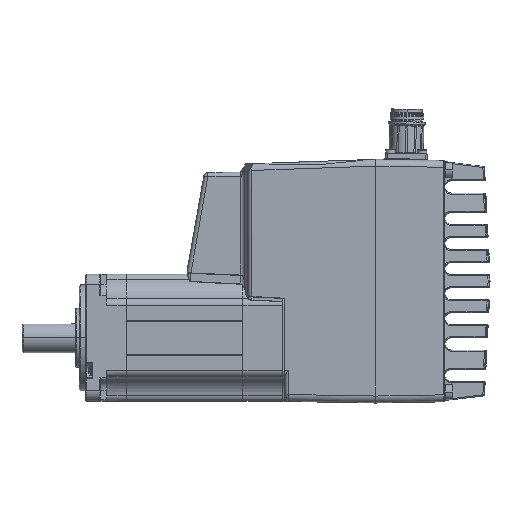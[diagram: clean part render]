
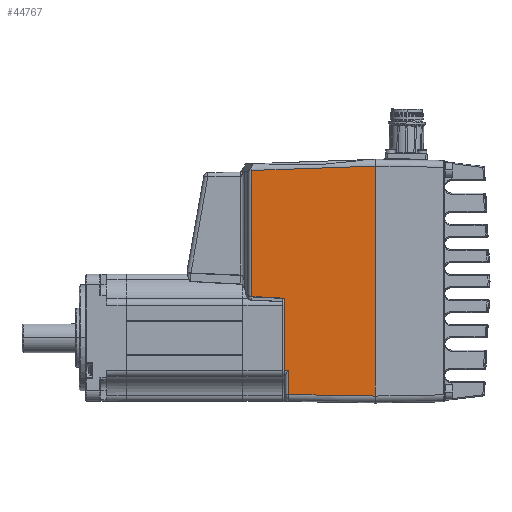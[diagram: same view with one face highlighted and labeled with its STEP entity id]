
A CAD part, top view. The second image highlights one B-rep face of the part: STEP entity #44767.
In plain terms, the highlighted planar face has unit normal (-0.035, 0, 0.999) as drawn and (0.999, 0, 0.035) by its records, which use the part's own axes.
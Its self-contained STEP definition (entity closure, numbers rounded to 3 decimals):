
#2304=DIRECTION('',(0.036,0.,-0.999));
#2305=VECTOR('',#2304,1.885);
#2306=CARTESIAN_POINT('',(30.001,-42.249,42.904));
#2307=LINE('',#2306,#2305);
#2326=DIRECTION('',(-0.035,0.017,0.999));
#2327=VECTOR('',#2326,40.954);
#2328=CARTESIAN_POINT('',(31.497,-54.3,
0.097));
#2329=LINE('',#2328,#2327);
#2333=CARTESIAN_POINT('',(30.002,-8.093,42.903));
#2334=CARTESIAN_POINT('',(29.84,-7.815,47.536));
#2335=CARTESIAN_POINT('',(29.658,-7.545,52.737));
#2336=CARTESIAN_POINT('',(29.458,-7.285,58.468));
#2341=DIRECTION('',(0.035,0.035,-0.999));
#2342=VECTOR('',#2341,58.442);
#2343=CARTESIAN_POINT('',(29.458,52.26,58.468));
#2344=LINE('',#2343,#2342);
#3882=DIRECTION('',(0.,-1.,0.));
#3883=VECTOR('',#3882,11.336);
#3884=CARTESIAN_POINT('',(30.068,-42.249,41.02));
#3885=LINE('',#3884,#3883);
#4693=CARTESIAN_POINT('',(29.458,-7.285,58.468));
#4762=DIRECTION('',(0.,-1.,0.));
#4763=VECTOR('',#4762,34.156);
#4764=CARTESIAN_POINT('',(30.002,-8.093,42.903));
#4765=LINE('',#4764,#4763);
#4800=DIRECTION('',(0.,-1.,0.));
#4801=VECTOR('',#4800,59.545);
#4802=CARTESIAN_POINT('',(29.458,52.26,58.468));
#4803=LINE('',#4802,#4801);
#5283=DIRECTION('',(0.,1.,0.));
#5284=VECTOR('',#5283,108.598);
#5285=CARTESIAN_POINT('',(31.497,-54.3,
0.097));
#5286=LINE('',#5285,#5284);
#37458=VERTEX_POINT('',#4693);
#37510=CARTESIAN_POINT('',(30.001,-42.249,
42.904));
#37512=VERTEX_POINT('',#37510);
#37516=CARTESIAN_POINT('',(30.068,-42.249,
41.02));
#37517=VERTEX_POINT('',#37516);
#37518=CARTESIAN_POINT('',(31.497,-54.3,
0.097));
#37519=CARTESIAN_POINT('',(30.068,-53.585,
41.02));
#37520=VERTEX_POINT('',#37518);
#37521=VERTEX_POINT('',#37519);
#37522=VERTEX_POINT('',#2333);
#37523=CARTESIAN_POINT('',(29.458,52.26,58.468));
#37524=CARTESIAN_POINT('',(31.496,54.299,
0.097));
#37525=VERTEX_POINT('',#37523);
#37526=VERTEX_POINT('',#37524);
#44745=CARTESIAN_POINT('',(30.477,-0.001,
29.282));
#44746=DIRECTION('',(0.999,0.,0.035));
#44747=DIRECTION('',(0.,-1.,0.));
#44748=AXIS2_PLACEMENT_3D('',#44745,#44746,#44747);
#44749=PLANE('',#44748);
#44751=ORIENTED_EDGE('',*,*,#44750,.T.);
#44753=ORIENTED_EDGE('',*,*,#44752,.F.);
#44754=ORIENTED_EDGE('',*,*,#44737,.F.);
#44756=ORIENTED_EDGE('',*,*,#44755,.F.);
#44758=ORIENTED_EDGE('',*,*,#44757,.T.);
#44760=ORIENTED_EDGE('',*,*,#44759,.F.);
#44762=ORIENTED_EDGE('',*,*,#44761,.T.);
#44764=ORIENTED_EDGE('',*,*,#44763,.F.);
#44765=EDGE_LOOP('',(#44751,#44753,#44754,#44756,#44758,#44760,#44762,#44764));
#44766=FACE_OUTER_BOUND('',#44765,.F.);
#2337=B_SPLINE_CURVE_WITH_KNOTS('',3,(#2333,#2334,#2335,#2336),.UNSPECIFIED.,
.F.,.F.,(4,4),(0.,1.),.UNSPECIFIED.);
#44737=EDGE_CURVE('',#37512,#37517,#2307,.T.);
#44750=EDGE_CURVE('',#37520,#37521,#2329,.T.);
#44752=EDGE_CURVE('',#37517,#37521,#3885,.T.);
#44755=EDGE_CURVE('',#37522,#37512,#4765,.T.);
#44757=EDGE_CURVE('',#37522,#37458,#2337,.T.);
#44759=EDGE_CURVE('',#37525,#37458,#4803,.T.);
#44761=EDGE_CURVE('',#37525,#37526,#2344,.T.);
#44763=EDGE_CURVE('',#37520,#37526,#5286,.T.);
#44767=ADVANCED_FACE('',(#44766),#44749,.T.);
